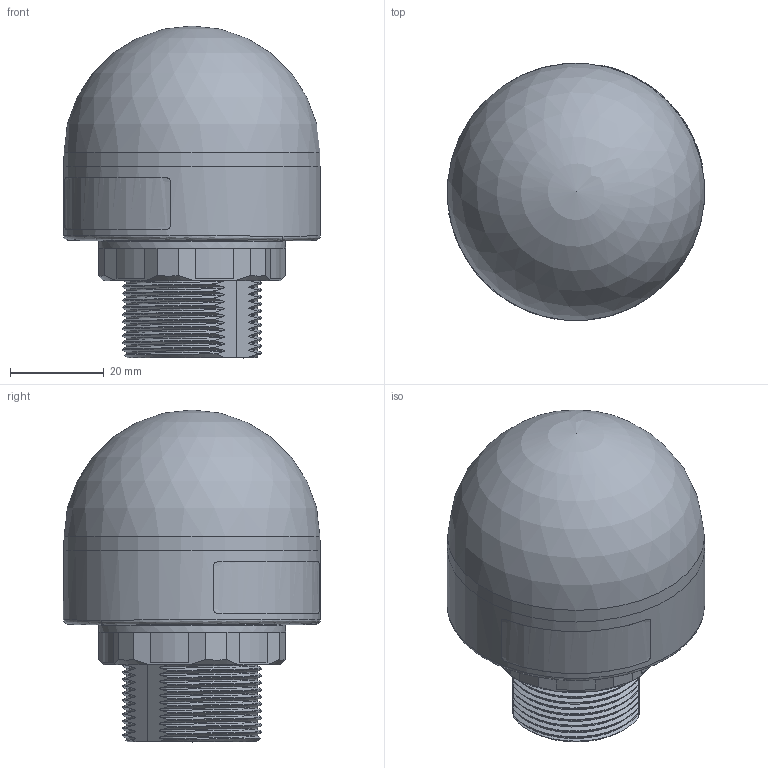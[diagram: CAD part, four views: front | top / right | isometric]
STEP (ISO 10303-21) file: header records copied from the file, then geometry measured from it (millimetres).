
FILE_DESCRIPTION(/* description */ ('Customer part'),/* implementation_level */ '2;1');
FILE_NAME(/* name */ 'C:\CEWorkDir\0050569C0EFC1EDCA590206A6A2400C4\in\800000001619_prt_000.step',/* time_stamp */ '2022-02-23T09:18:01+01:00',/* author */ ('JENNERT'),/* organization */ ('WERMA Signaltechnik GmbH+Co.KG'),/* preprocessor_version */ 'ST-DEVELOPER v17',/* originating_system */ 'Autodesk Inventor 2018',/* authorisation */ 'public');
FILE_SCHEMA (('AUTOMOTIVE_DESIGN { 1 0 10303 214 3 1 1 }'));
Length unit declared in the file: millimetre
Products named in the file (1): 800000001619_prt_000_1
Bounding box: 54.88 x 54.97 x 70.95 mm (x, y, z)
Volume: 105686.1 mm3; surface area: 15066 mm2
Topology: 2 solids, 2 shells, 293 faces, 805 edges, 526 vertices
Faces by surface type: plane 124, bspline 75, cylinder 71, cone 22, sphere 1
Full cylindrical faces by diameter (mm): 40 x1, 55 x1
Entity records: 16124 total; most frequent: CARTESIAN_POINT 9112, ORIENTED_EDGE 1608, DIRECTION 1068, EDGE_CURVE 804, VERTEX_POINT 526, AXIS2_PLACEMENT_3D 381, EDGE_LOOP 306, LINE 306
